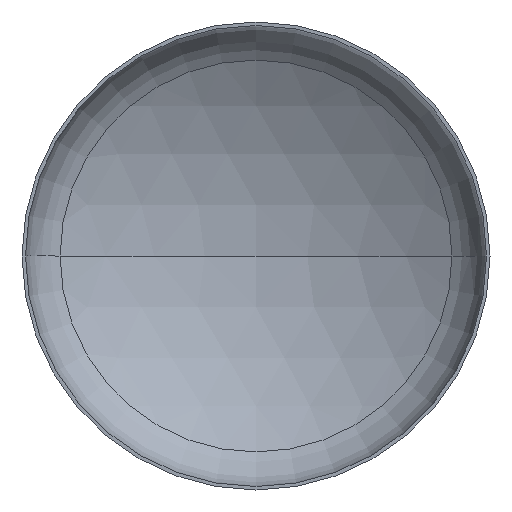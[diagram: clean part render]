
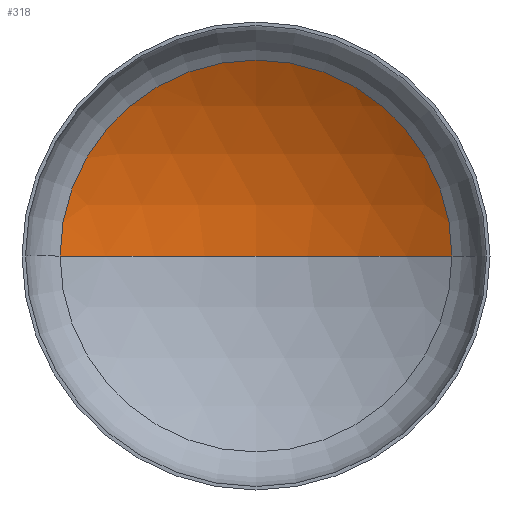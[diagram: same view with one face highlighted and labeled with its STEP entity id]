
A CAD part, front view. The second image highlights one B-rep face of the part: STEP entity #318.
In plain terms, the highlighted spherical face has radius 1600 mm.
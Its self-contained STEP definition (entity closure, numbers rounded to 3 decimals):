
#5 = CARTESIAN_POINT ( 'NONE',  ( 0., -1054.307, 0. ) ) ;
#12 = ORIENTED_EDGE ( 'NONE', *, *, #359, .T. ) ;
#21 = EDGE_LOOP ( 'NONE', ( #153, #12, #152 ) ) ;
#22 = VERTEX_POINT ( 'NONE', #275 ) ;
#28 = AXIS2_PLACEMENT_3D ( 'NONE', #5, #350, #278 ) ;
#32 = AXIS2_PLACEMENT_3D ( 'NONE', #60, #303, #392 ) ;
#39 = AXIS2_PLACEMENT_3D ( 'NONE', #371, #226, #227 ) ;
#60 = CARTESIAN_POINT ( 'NONE',  ( 0., -1054.307, 0. ) ) ;
#81 = AXIS2_PLACEMENT_3D ( 'NONE', #233, #236, #150 ) ;
#137 = VERTEX_POINT ( 'NONE', #326 ) ;
#148 = VERTEX_POINT ( 'NONE', #348 ) ;
#150 = DIRECTION ( 'NONE',  ( -1., 0., 0. ) ) ;
#152 = ORIENTED_EDGE ( 'NONE', *, *, #355, .T. ) ;
#153 = ORIENTED_EDGE ( 'NONE', *, *, #360, .F. ) ;
#209 = CIRCLE ( 'NONE', #39, 837.209 ) ;
#226 = DIRECTION ( 'NONE',  ( 0., -1., 0. ) ) ;
#227 = DIRECTION ( 'NONE',  ( 1., 0., 0. ) ) ;
#233 = CARTESIAN_POINT ( 'NONE',  ( 0., -1054.307, 0. ) ) ;
#236 = DIRECTION ( 'NONE',  ( 0., 0., -1. ) ) ;
#269 = CIRCLE ( 'NONE', #28, 1600. ) ;
#275 = CARTESIAN_POINT ( 'NONE',  ( 837.209, 309.174, 0. ) ) ;
#278 = DIRECTION ( 'NONE',  ( 1., 0., 0. ) ) ;
#290 = FACE_OUTER_BOUND ( 'NONE', #21, .T. ) ;
#293 = SPHERICAL_SURFACE ( 'NONE', #81, 1600. ) ;
#303 = DIRECTION ( 'NONE',  ( 0., 0., -1. ) ) ;
#318 = ADVANCED_FACE ( 'NONE', ( #290 ), #293, .F. ) ;
#326 = CARTESIAN_POINT ( 'NONE',  ( 0., 545.693, 0. ) ) ;
#348 = CARTESIAN_POINT ( 'NONE',  ( -837.209, 309.174, 0. ) ) ;
#350 = DIRECTION ( 'NONE',  ( 0., 0., 1. ) ) ;
#355 = EDGE_CURVE ( 'NONE', #22, #148, #209, .T. ) ;
#359 = EDGE_CURVE ( 'NONE', #137, #22, #409, .T. ) ;
#360 = EDGE_CURVE ( 'NONE', #137, #148, #269, .T. ) ;
#371 = CARTESIAN_POINT ( 'NONE',  ( 0., 309.174, 0. ) ) ;
#392 = DIRECTION ( 'NONE',  ( -1., 0., 0. ) ) ;
#409 = CIRCLE ( 'NONE', #32, 1600. ) ;
